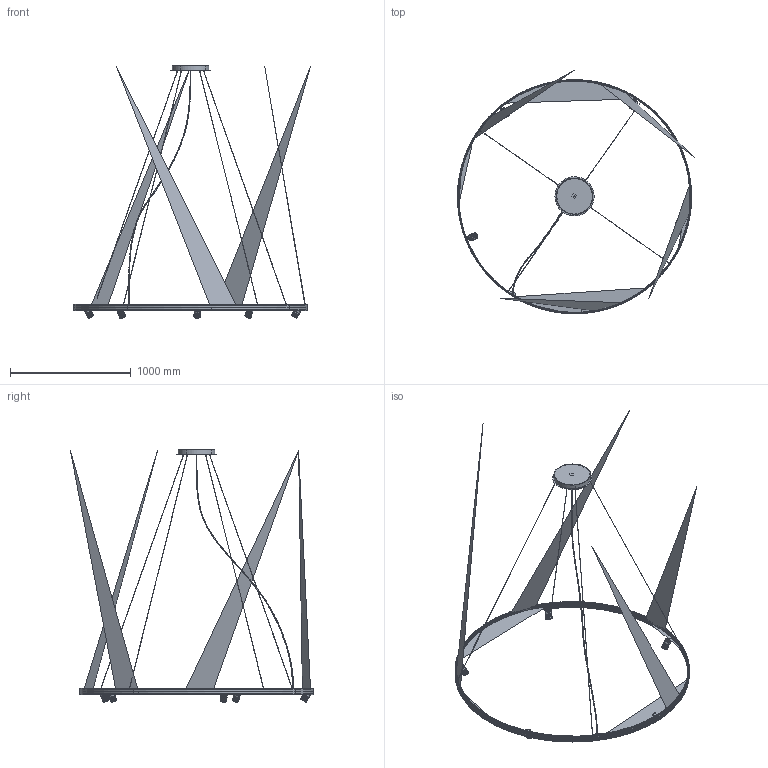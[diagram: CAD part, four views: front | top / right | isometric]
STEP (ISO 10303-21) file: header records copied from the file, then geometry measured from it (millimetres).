
FILE_DESCRIPTION(/* description */ (''),/* implementation_level */ '2;1');
FILE_NAME(/* name */ 'L074__.200',/* time_stamp */ '2024-07-08T11:23:59+02:00',/* author */ (''),/* organization */ (''),/* preprocessor_version */ 'ST-DEVELOPER v16.5',/* originating_system */ '',/* authorisation */ '');
FILE_SCHEMA (('AUTOMOTIVE_DESIGN'));
Length unit declared in the file: millimetre
Products named in the file (28): Document; Parte39^L074__.200.0518; Blocco 12; Parte40^L074__.200.0518; Blocco 47; 3300.0205000.00 (profilo curvo Arena ALL 8,6x53mm D est. 1938mm)_3306.
0205360.00; Blocco 20; 3100.0056000.00 (schermo estruso Giplast 09PE79 PC 19x3,8mm per curva
 D int. 1918,2mm)_3101.0056068.98; Blocco 04; 3100.0056000.00 (schermo estruso Giplast 09PE79 PC 19x3,8mm per curva
 D int. 1918,2mm)_3101.0056178.98; Blocco 29; 3100.0056000.00 (schermo estruso Giplast 09PE79 PC 19x3,8mm per curva
 D int. 1918,2mm)_3101.0056032.00; Blocco 37; 3200.0495000.00 (copertura giunzione ACC 72,2x22,2mm H 41,1mm sp 1)_3
209.0495001.00; Blocco 40; 3300.0206000.00 (corpo faretto ALL D 53mm H 75mm Ivela 95-04138-00)_3
300.0206000.00; Blocco 49; 3100.0057000.00 (cilindro di chiusura con sede schermo PBT+FV nero D 
50,6mm H 33mm Ivela 94-04139A-30)_3100.0057000.00; Blocco 10; Blocco 43; 3200.0468000.00 (copertura piastrina di fissaggio faretto ACC 70x23,4
x4mm sp 0,7)_3209.0468000.00; Blocco 32; 3300.0207000.00 (fondello faretto ALL D 47,4mm H 11,5mm Ivela 95-0414
0-00)_3300.0207000.00; Blocco 06; 3500.0014000.00 (schermo piano zigrinato VETRO D 46mm sp 4 Ivela 98-0
4074-58)_3500.0014000.00; Blocco 52; 5401.0018000.00 (molla in nastro sagomata ACC INOX 6x54,2x9,5mm sp 0,
3)_5401.0018000.00 in opera; Blocco 16
Assembly tree (59 placements, depth 3):
  Document
    Parte39^L074__.200.0518  x4
      Blocco 12
    Parte40^L074__.200.0518
      Blocco 47
    3300.0205000.00 (profilo curvo Arena ALL 8,6x53mm D est. 1938mm)_3306.
0205360.00
      Blocco 20
    3100.0056000.00 (schermo estruso Giplast 09PE79 PC 19x3,8mm per curva
 D int. 1918,2mm)_3101.0056068.98  x4
      Blocco 04
    3100.0056000.00 (schermo estruso Giplast 09PE79 PC 19x3,8mm per curva
 D int. 1918,2mm)_3101.0056178.98  x2
      Blocco 29
    3100.0056000.00 (schermo estruso Giplast 09PE79 PC 19x3,8mm per curva
 D int. 1918,2mm)_3101.0056032.00  x2
      Blocco 37
    3200.0495000.00 (copertura giunzione ACC 72,2x22,2mm H 41,1mm sp 1)_3
209.0495001.00
      Blocco 40
    3300.0206000.00 (corpo faretto ALL D 53mm H 75mm Ivela 95-04138-00)_3
300.0206000.00  x5
      Blocco 49
    3100.0057000.00 (cilindro di chiusura con sede schermo PBT+FV nero D 
50,6mm H 33mm Ivela 94-04139A-30)_3100.0057000.00  x5
      Blocco 10
    Blocco 43  x5
    3200.0468000.00 (copertura piastrina di fissaggio faretto ACC 70x23,4
x4mm sp 0,7)_3209.0468000.00  x5
      Blocco 32
    3300.0207000.00 (fondello faretto ALL D 47,4mm H 11,5mm Ivela 95-0414
0-00)_3300.0207000.00  x5
      Blocco 06
    3500.0014000.00 (schermo piano zigrinato VETRO D 46mm sp 4 Ivela 98-0
4074-58)_3500.0014000.00  x5
      Blocco 52
    5401.0018000.00 (molla in nastro sagomata ACC INOX 6x54,2x9,5mm sp 0,
3)_5401.0018000.00 in opera
      Blocco 16
Bounding box: 1961.94 x 2013.04 x 2089.2 mm (x, y, z)
Volume: 246245 mm3; surface area: 2366206.3 mm2
Topology: 6 solids, 1992 shells, 2056 faces, 10602 edges, 10496 vertices
Faces by surface type: bspline 1236, plane 820
Entity records: 56072 total; most frequent: CARTESIAN_POINT 36708, ORIENTED_EDGE 3850, EDGE_CURVE 3734, VERTEX_POINT 3686, B_SPLINE_CURVE_WITH_KNOTS 1817, EDGE_LOOP 828, ADVANCED_FACE 765, FACE_OUTER_BOUND 765
